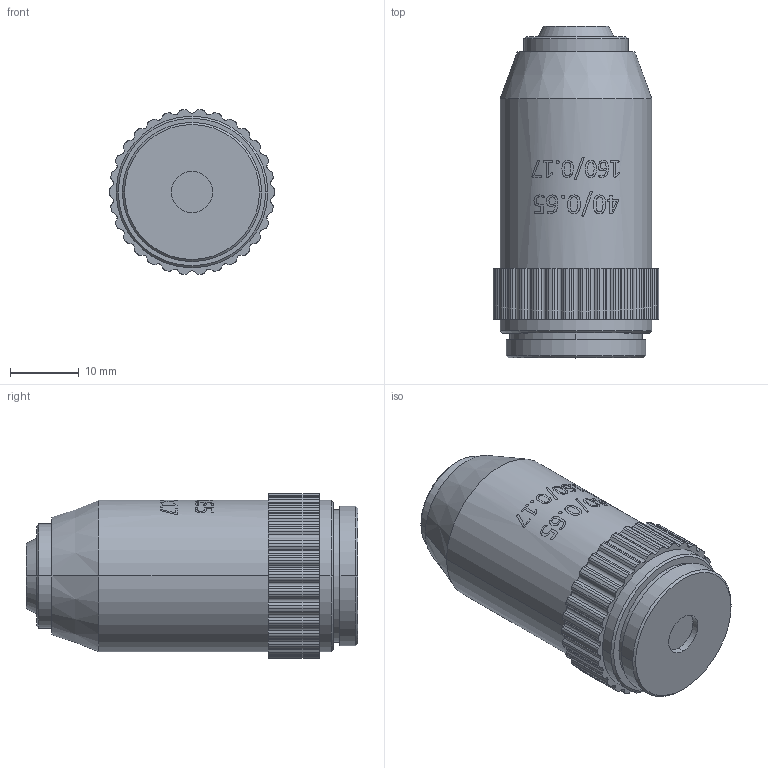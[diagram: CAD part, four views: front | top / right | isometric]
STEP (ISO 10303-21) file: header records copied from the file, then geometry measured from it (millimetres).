
FILE_DESCRIPTION (( 'STEP AP203' ), '1' );
FILE_NAME ('MO-40X-C_defeature.STEP', '2021-08-31T01:34:00', ( '' ), ( '' ), 'SwSTEP 2.0', 'SolidWorks 2019', '' );
FILE_SCHEMA (( 'CONFIG_CONTROL_DESIGN' ));
Length unit declared in the file: millimetre
Products named in the file (1): MO-40X-C_defeature
Bounding box: 24 x 48.16 x 23.92 mm (x, y, z)
Volume: 16999.2 mm3; surface area: 4045.2 mm2
Topology: 1 solids, 1 shells, 246 faces, 787 edges, 573 vertices
Faces by surface type: cylinder 166, plane 70, cone 10
Entity records: 11812 total; most frequent: CARTESIAN_POINT 4630, ORIENTED_EDGE 1574, DIRECTION 1445, EDGE_CURVE 787, VERTEX_POINT 573, AXIS2_PLACEMENT_3D 554, LINE 337, VECTOR 337
